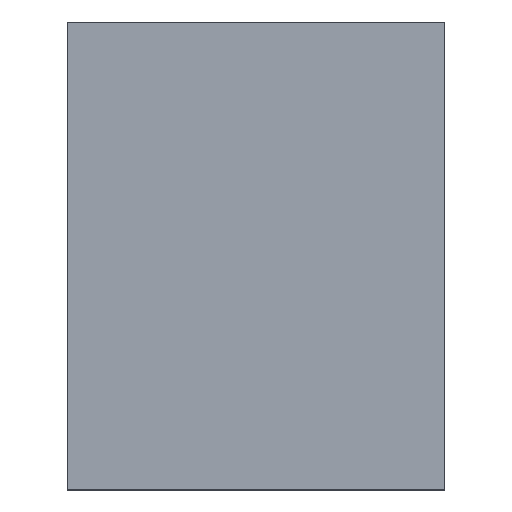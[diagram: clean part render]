
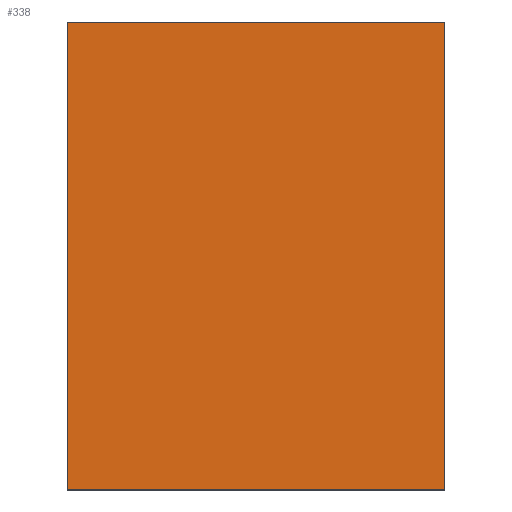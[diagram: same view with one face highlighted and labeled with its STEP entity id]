
A CAD part, top view. The second image highlights one B-rep face of the part: STEP entity #338.
In plain terms, the highlighted planar face has unit normal (0, 0, 1).
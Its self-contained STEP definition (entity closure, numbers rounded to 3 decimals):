
#24 = VERTEX_POINT('',#25);
#25 = CARTESIAN_POINT('',(-215.,170.,-43.));
#32 = PLANE('',#33);
#33 = AXIS2_PLACEMENT_3D('',#34,#35,#36);
#34 = CARTESIAN_POINT('',(-215.,170.,-118.));
#35 = DIRECTION('',(1.,0.,-0.));
#36 = DIRECTION('',(0.,0.,1.));
#44 = PLANE('',#45);
#45 = AXIS2_PLACEMENT_3D('',#46,#47,#48);
#46 = CARTESIAN_POINT('',(-215.,170.,-118.));
#47 = DIRECTION('',(-0.,1.,0.));
#48 = DIRECTION('',(0.,0.,1.));
#85 = VERTEX_POINT('',#86);
#86 = CARTESIAN_POINT('',(-215.,300.,-43.));
#100 = PLANE('',#101);
#101 = AXIS2_PLACEMENT_3D('',#102,#103,#104);
#102 = CARTESIAN_POINT('',(-215.,300.,-118.));
#103 = DIRECTION('',(-0.,1.,0.));
#104 = DIRECTION('',(0.,0.,1.));
#112 = EDGE_CURVE('',#24,#85,#113,.T.);
#113 = SURFACE_CURVE('',#114,(#118,#125),.PCURVE_S1.);
#114 = LINE('',#115,#116);
#115 = CARTESIAN_POINT('',(-215.,170.,-43.));
#116 = VECTOR('',#117,1.);
#117 = DIRECTION('',(-0.,1.,0.));
#118 = PCURVE('',#32,#119);
#119 = DEFINITIONAL_REPRESENTATION('',(#120),#124);
#120 = LINE('',#121,#122);
#121 = CARTESIAN_POINT('',(75.,0.));
#122 = VECTOR('',#123,1.);
#123 = DIRECTION('',(0.,-1.));
#124 = ( GEOMETRIC_REPRESENTATION_CONTEXT(2) 
PARAMETRIC_REPRESENTATION_CONTEXT() REPRESENTATION_CONTEXT('2D SPACE',''
  ) );
#125 = PCURVE('',#126,#131);
#126 = PLANE('',#127);
#127 = AXIS2_PLACEMENT_3D('',#128,#129,#130);
#128 = CARTESIAN_POINT('',(-215.,170.,-43.));
#129 = DIRECTION('',(0.,0.,1.));
#130 = DIRECTION('',(1.,0.,-0.));
#131 = DEFINITIONAL_REPRESENTATION('',(#132),#136);
#132 = LINE('',#133,#134);
#133 = CARTESIAN_POINT('',(0.,0.));
#134 = VECTOR('',#135,1.);
#135 = DIRECTION('',(0.,1.));
#136 = ( GEOMETRIC_REPRESENTATION_CONTEXT(2) 
PARAMETRIC_REPRESENTATION_CONTEXT() REPRESENTATION_CONTEXT('2D SPACE',''
  ) );
#144 = VERTEX_POINT('',#145);
#145 = CARTESIAN_POINT('',(-110.,170.,-43.));
#152 = PLANE('',#153);
#153 = AXIS2_PLACEMENT_3D('',#154,#155,#156);
#154 = CARTESIAN_POINT('',(-110.,170.,-118.));
#155 = DIRECTION('',(1.,0.,-0.));
#156 = DIRECTION('',(0.,0.,1.));
#195 = VERTEX_POINT('',#196);
#196 = CARTESIAN_POINT('',(-110.,300.,-43.));
#217 = EDGE_CURVE('',#144,#195,#218,.T.);
#218 = SURFACE_CURVE('',#219,(#223,#230),.PCURVE_S1.);
#219 = LINE('',#220,#221);
#220 = CARTESIAN_POINT('',(-110.,170.,-43.));
#221 = VECTOR('',#222,1.);
#222 = DIRECTION('',(-0.,1.,0.));
#223 = PCURVE('',#152,#224);
#224 = DEFINITIONAL_REPRESENTATION('',(#225),#229);
#225 = LINE('',#226,#227);
#226 = CARTESIAN_POINT('',(75.,0.));
#227 = VECTOR('',#228,1.);
#228 = DIRECTION('',(0.,-1.));
#229 = ( GEOMETRIC_REPRESENTATION_CONTEXT(2) 
PARAMETRIC_REPRESENTATION_CONTEXT() REPRESENTATION_CONTEXT('2D SPACE',''
  ) );
#230 = PCURVE('',#126,#231);
#231 = DEFINITIONAL_REPRESENTATION('',(#232),#236);
#232 = LINE('',#233,#234);
#233 = CARTESIAN_POINT('',(105.,0.));
#234 = VECTOR('',#235,1.);
#235 = DIRECTION('',(0.,1.));
#236 = ( GEOMETRIC_REPRESENTATION_CONTEXT(2) 
PARAMETRIC_REPRESENTATION_CONTEXT() REPRESENTATION_CONTEXT('2D SPACE',''
  ) );
#263 = EDGE_CURVE('',#24,#144,#264,.T.);
#264 = SURFACE_CURVE('',#265,(#269,#276),.PCURVE_S1.);
#265 = LINE('',#266,#267);
#266 = CARTESIAN_POINT('',(-215.,170.,-43.));
#267 = VECTOR('',#268,1.);
#268 = DIRECTION('',(1.,0.,-0.));
#269 = PCURVE('',#44,#270);
#270 = DEFINITIONAL_REPRESENTATION('',(#271),#275);
#271 = LINE('',#272,#273);
#272 = CARTESIAN_POINT('',(75.,0.));
#273 = VECTOR('',#274,1.);
#274 = DIRECTION('',(0.,1.));
#275 = ( GEOMETRIC_REPRESENTATION_CONTEXT(2) 
PARAMETRIC_REPRESENTATION_CONTEXT() REPRESENTATION_CONTEXT('2D SPACE',''
  ) );
#276 = PCURVE('',#126,#277);
#277 = DEFINITIONAL_REPRESENTATION('',(#278),#282);
#278 = LINE('',#279,#280);
#279 = CARTESIAN_POINT('',(0.,0.));
#280 = VECTOR('',#281,1.);
#281 = DIRECTION('',(1.,0.));
#282 = ( GEOMETRIC_REPRESENTATION_CONTEXT(2) 
PARAMETRIC_REPRESENTATION_CONTEXT() REPRESENTATION_CONTEXT('2D SPACE',''
  ) );
#310 = EDGE_CURVE('',#85,#195,#311,.T.);
#311 = SURFACE_CURVE('',#312,(#316,#323),.PCURVE_S1.);
#312 = LINE('',#313,#314);
#313 = CARTESIAN_POINT('',(-215.,300.,-43.));
#314 = VECTOR('',#315,1.);
#315 = DIRECTION('',(1.,0.,-0.));
#316 = PCURVE('',#100,#317);
#317 = DEFINITIONAL_REPRESENTATION('',(#318),#322);
#318 = LINE('',#319,#320);
#319 = CARTESIAN_POINT('',(75.,0.));
#320 = VECTOR('',#321,1.);
#321 = DIRECTION('',(0.,1.));
#322 = ( GEOMETRIC_REPRESENTATION_CONTEXT(2) 
PARAMETRIC_REPRESENTATION_CONTEXT() REPRESENTATION_CONTEXT('2D SPACE',''
  ) );
#323 = PCURVE('',#126,#324);
#324 = DEFINITIONAL_REPRESENTATION('',(#325),#329);
#325 = LINE('',#326,#327);
#326 = CARTESIAN_POINT('',(0.,130.));
#327 = VECTOR('',#328,1.);
#328 = DIRECTION('',(1.,0.));
#329 = ( GEOMETRIC_REPRESENTATION_CONTEXT(2) 
PARAMETRIC_REPRESENTATION_CONTEXT() REPRESENTATION_CONTEXT('2D SPACE',''
  ) );
#338 = ADVANCED_FACE('',(#339),#126,.T.);
#339 = FACE_BOUND('',#340,.T.);
#340 = EDGE_LOOP('',(#341,#342,#343,#344));
#341 = ORIENTED_EDGE('',*,*,#112,.F.);
#342 = ORIENTED_EDGE('',*,*,#263,.T.);
#343 = ORIENTED_EDGE('',*,*,#217,.T.);
#344 = ORIENTED_EDGE('',*,*,#310,.F.);
